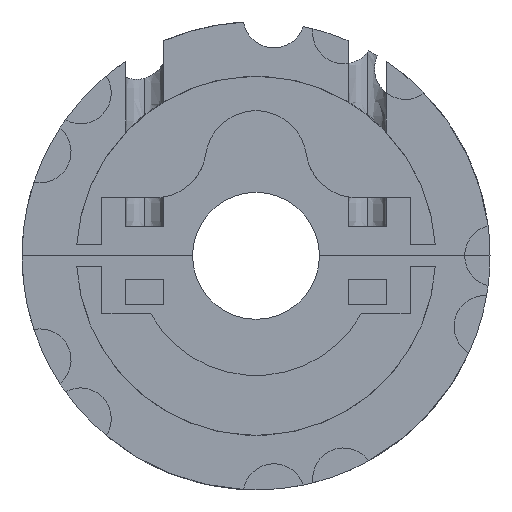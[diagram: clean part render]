
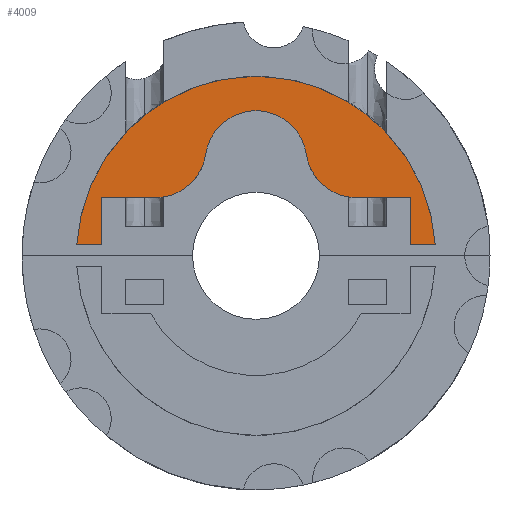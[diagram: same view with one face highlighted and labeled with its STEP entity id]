
A CAD part, left-side view. The second image highlights one B-rep face of the part: STEP entity #4009.
In plain terms, the highlighted planar face has unit normal (-1, 0, 0).
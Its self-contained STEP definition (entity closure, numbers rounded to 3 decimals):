
#2018=AXIS2_PLACEMENT_3D('Plane Axis2P3D',#2015,#2016,#2017) ;
#2731=AXIS2_PLACEMENT_3D('Circle Axis2P3D',#2729,#2730,$) ;
#2977=AXIS2_PLACEMENT_3D('Circle Axis2P3D',#2975,#2976,$) ;
#2996=AXIS2_PLACEMENT_3D('Circle Axis2P3D',#2994,#2995,$) ;
#3043=AXIS2_PLACEMENT_3D('Circle Axis2P3D',#3041,#3042,$) ;
#3279=AXIS2_PLACEMENT_3D('Circle Axis2P3D',#3277,#3278,$) ;
#2015=CARTESIAN_POINT('Axis2P3D Location',(-3.5,0.,0.)) ;
#2726=CARTESIAN_POINT('Vertex',(-3.5,49.409,3.)) ;
#2729=CARTESIAN_POINT('Axis2P3D Location',(-3.5,0.,0.)) ;
#2733=CARTESIAN_POINT('Vertex',(-3.5,0.,49.5)) ;
#2777=CARTESIAN_POINT('Vertex',(-3.5,42.5,3.)) ;
#2780=CARTESIAN_POINT('Line Origine',(-3.5,45.955,3.)) ;
#2796=CARTESIAN_POINT('Vertex',(-3.5,42.5,16.)) ;
#2799=CARTESIAN_POINT('Line Origine',(-3.5,42.5,9.5)) ;
#2829=CARTESIAN_POINT('Vertex',(-3.5,27.713,16.)) ;
#2832=CARTESIAN_POINT('Line Origine',(-3.5,35.106,16.)) ;
#2972=CARTESIAN_POINT('Vertex',(-3.5,13.856,28.)) ;
#2975=CARTESIAN_POINT('Axis2P3D Location',(-3.5,27.713,30.)) ;
#2994=CARTESIAN_POINT('Axis2P3D Location',(-3.5,0.,26.)) ;
#2998=CARTESIAN_POINT('Vertex',(-3.5,-13.856,28.)) ;
#3038=CARTESIAN_POINT('Vertex',(-3.5,-27.713,16.)) ;
#3041=CARTESIAN_POINT('Axis2P3D Location',(-3.5,-27.713,30.)) ;
#3158=CARTESIAN_POINT('Vertex',(-3.5,-42.5,16.)) ;
#3161=CARTESIAN_POINT('Line Origine',(-3.5,-35.106,16.)) ;
#3181=CARTESIAN_POINT('Line Origine',(-3.5,-42.5,9.5)) ;
#3185=CARTESIAN_POINT('Vertex',(-3.5,-42.5,3.)) ;
#3200=CARTESIAN_POINT('Line Origine',(-3.5,-45.955,3.)) ;
#3204=CARTESIAN_POINT('Vertex',(-3.5,-49.409,3.)) ;
#3277=CARTESIAN_POINT('Axis2P3D Location',(-3.5,0.,0.)) ;
#2016=DIRECTION('Axis2P3D Direction',(1.,0.,0.)) ;
#2017=DIRECTION('Axis2P3D XDirection',(0.,1.,0.)) ;
#2730=DIRECTION('Axis2P3D Direction',(1.,0.,-0.)) ;
#2781=DIRECTION('Vector Direction',(0.,1.,0.)) ;
#2800=DIRECTION('Vector Direction',(0.,0.,-1.)) ;
#2833=DIRECTION('Vector Direction',(0.,1.,0.)) ;
#2976=DIRECTION('Axis2P3D Direction',(1.,0.,0.)) ;
#2995=DIRECTION('Axis2P3D Direction',(1.,0.,0.)) ;
#3042=DIRECTION('Axis2P3D Direction',(1.,0.,0.)) ;
#3162=DIRECTION('Vector Direction',(0.,1.,0.)) ;
#3182=DIRECTION('Vector Direction',(0.,0.,1.)) ;
#3201=DIRECTION('Vector Direction',(0.,1.,0.)) ;
#3278=DIRECTION('Axis2P3D Direction',(1.,0.,-0.)) ;
#2782=VECTOR('Line Direction',#2781,1.) ;
#2801=VECTOR('Line Direction',#2800,1.) ;
#2834=VECTOR('Line Direction',#2833,1.) ;
#3163=VECTOR('Line Direction',#3162,1.) ;
#3183=VECTOR('Line Direction',#3182,1.) ;
#3202=VECTOR('Line Direction',#3201,1.) ;
#3997=ORIENTED_EDGE('',*,*,#2784,.F.) ;
#3998=ORIENTED_EDGE('',*,*,#2803,.T.) ;
#3999=ORIENTED_EDGE('',*,*,#2836,.T.) ;
#4000=ORIENTED_EDGE('',*,*,#2979,.T.) ;
#4001=ORIENTED_EDGE('',*,*,#3000,.T.) ;
#4002=ORIENTED_EDGE('',*,*,#3045,.T.) ;
#4003=ORIENTED_EDGE('',*,*,#3165,.T.) ;
#4004=ORIENTED_EDGE('',*,*,#3187,.T.) ;
#4005=ORIENTED_EDGE('',*,*,#3206,.F.) ;
#4006=ORIENTED_EDGE('',*,*,#3281,.F.) ;
#4007=ORIENTED_EDGE('',*,*,#2735,.F.) ;
#4009=ADVANCED_FACE('Body.7',(#4008),#2019,.F.) ;
#2732=CIRCLE('generated circle',#2731,49.5) ;
#2978=CIRCLE('generated circle',#2977,14.) ;
#2997=CIRCLE('generated circle',#2996,14.) ;
#3044=CIRCLE('generated circle',#3043,14.) ;
#3280=CIRCLE('generated circle',#3279,49.5) ;
#2735=EDGE_CURVE('',#2727,#2734,#2732,.T.) ;
#2784=EDGE_CURVE('',#2778,#2727,#2783,.T.) ;
#2803=EDGE_CURVE('',#2778,#2797,#2802,.F.) ;
#2836=EDGE_CURVE('',#2797,#2830,#2835,.F.) ;
#2979=EDGE_CURVE('',#2830,#2973,#2978,.F.) ;
#3000=EDGE_CURVE('',#2973,#2999,#2997,.T.) ;
#3045=EDGE_CURVE('',#2999,#3039,#3044,.F.) ;
#3165=EDGE_CURVE('',#3039,#3159,#3164,.F.) ;
#3187=EDGE_CURVE('',#3159,#3186,#3184,.F.) ;
#3206=EDGE_CURVE('',#3205,#3186,#3203,.T.) ;
#3281=EDGE_CURVE('',#2734,#3205,#3280,.T.) ;
#3996=EDGE_LOOP('',(#3997,#3998,#3999,#4000,#4001,#4002,#4003,#4004,#4005,#4006,#4007)) ;
#4008=FACE_OUTER_BOUND('',#3996,.T.) ;
#2783=LINE('Line',#2780,#2782) ;
#2802=LINE('Line',#2799,#2801) ;
#2835=LINE('Line',#2832,#2834) ;
#3164=LINE('Line',#3161,#3163) ;
#3184=LINE('Line',#3181,#3183) ;
#3203=LINE('Line',#3200,#3202) ;
#2019=PLANE('',#2018) ;
#2727=VERTEX_POINT('',#2726) ;
#2734=VERTEX_POINT('',#2733) ;
#2778=VERTEX_POINT('',#2777) ;
#2797=VERTEX_POINT('',#2796) ;
#2830=VERTEX_POINT('',#2829) ;
#2973=VERTEX_POINT('',#2972) ;
#2999=VERTEX_POINT('',#2998) ;
#3039=VERTEX_POINT('',#3038) ;
#3159=VERTEX_POINT('',#3158) ;
#3186=VERTEX_POINT('',#3185) ;
#3205=VERTEX_POINT('',#3204) ;
